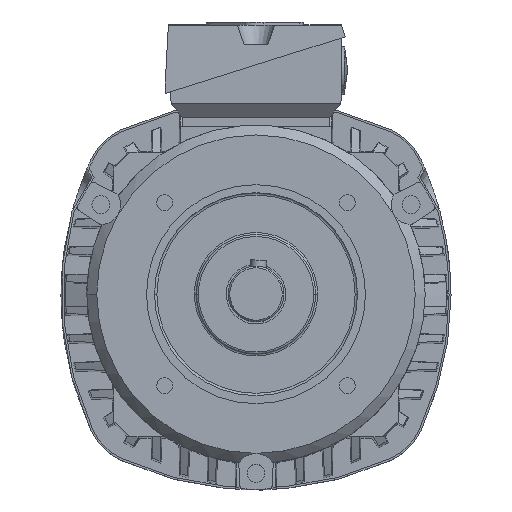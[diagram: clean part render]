
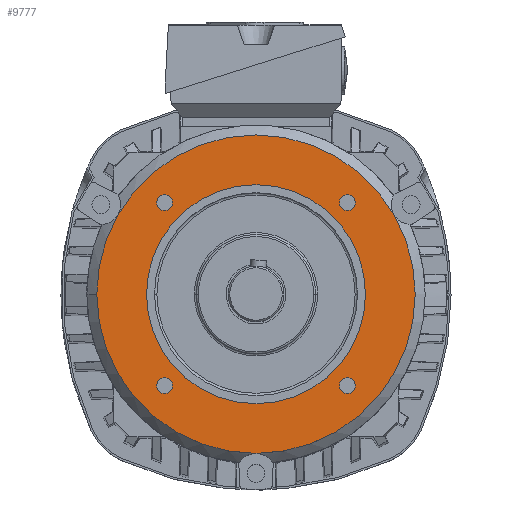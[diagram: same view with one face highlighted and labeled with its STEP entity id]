
A CAD part, top view. The second image highlights one B-rep face of the part: STEP entity #9777.
In plain terms, the highlighted planar face has unit normal (0, 0, 1).
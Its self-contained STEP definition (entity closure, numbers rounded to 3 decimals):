
#136 = DIRECTION ( 'NONE',  ( 1., 0., 0. ) ) ;
#253 = DIRECTION ( 'NONE',  ( -1., 0., 0. ) ) ;
#319 = CARTESIAN_POINT ( 'NONE',  ( 0., 0., 5. ) ) ;
#329 = ORIENTED_EDGE ( 'NONE', *, *, #5196, .F. ) ;
#432 = ORIENTED_EDGE ( 'NONE', *, *, #3754, .F. ) ;
#481 = DIRECTION ( 'NONE',  ( 1., 0., 0. ) ) ;
#504 = ORIENTED_EDGE ( 'NONE', *, *, #2367, .F. ) ;
#720 = DIRECTION ( 'NONE',  ( 1., 0., 0. ) ) ;
#747 = VERTEX_POINT ( 'NONE', #6214 ) ;
#960 = CIRCLE ( 'NONE', #2796, 4. ) ;
#986 = CARTESIAN_POINT ( 'NONE',  ( 0., 0., 5. ) ) ;
#1216 = VERTEX_POINT ( 'NONE', #15254 ) ;
#1386 = DIRECTION ( 'NONE',  ( 0., 1., 0. ) ) ;
#1406 = DIRECTION ( 'NONE',  ( 0., 0., 1. ) ) ;
#1459 = AXIS2_PLACEMENT_3D ( 'NONE', #8128, #4055, #481 ) ;
#1516 = ORIENTED_EDGE ( 'NONE', *, *, #10931, .F. ) ;
#1885 = EDGE_LOOP ( 'NONE', ( #504, #15744 ) ) ;
#2005 = CIRCLE ( 'NONE', #4413, 55. ) ;
#2176 = CARTESIAN_POINT ( 'NONE',  ( -55., 0., 5. ) ) ;
#2217 = VERTEX_POINT ( 'NONE', #9803 ) ;
#2267 = AXIS2_PLACEMENT_3D ( 'NONE', #12544, #2699, #11513 ) ;
#2333 = EDGE_CURVE ( 'NONE', #7802, #5702, #11342, .T. ) ;
#2348 = EDGE_CURVE ( 'NONE', #3596, #747, #11865, .T. ) ;
#2367 = EDGE_CURVE ( 'NONE', #7146, #2217, #11605, .T. ) ;
#2428 = CIRCLE ( 'NONE', #13859, 4. ) ;
#2505 = FACE_BOUND ( 'NONE', #8623, .T. ) ;
#2579 = AXIS2_PLACEMENT_3D ( 'NONE', #9124, #1406, #3984 ) ;
#2699 = DIRECTION ( 'NONE',  ( 0., 0., 1. ) ) ;
#2741 = FACE_BOUND ( 'NONE', #11750, .T. ) ;
#2749 = AXIS2_PLACEMENT_3D ( 'NONE', #4833, #12561, #1386 ) ;
#2796 = AXIS2_PLACEMENT_3D ( 'NONE', #4111, #12935, #10341 ) ;
#3208 = CARTESIAN_POINT ( 'NONE',  ( -45.962, 45.962, 5. ) ) ;
#3284 = AXIS2_PLACEMENT_3D ( 'NONE', #6030, #3352, #11244 ) ;
#3352 = DIRECTION ( 'NONE',  ( 0., 0., 1. ) ) ;
#3435 = VERTEX_POINT ( 'NONE', #9598 ) ;
#3596 = VERTEX_POINT ( 'NONE', #2176 ) ;
#3750 = EDGE_CURVE ( 'NONE', #1216, #7414, #4900, .T. ) ;
#3754 = EDGE_CURVE ( 'NONE', #13867, #5152, #15515, .T. ) ;
#3810 = CARTESIAN_POINT ( 'NONE',  ( 45.962, -45.962, 5. ) ) ;
#3984 = DIRECTION ( 'NONE',  ( 0., 1., 0. ) ) ;
#4055 = DIRECTION ( 'NONE',  ( 0., 0., 1. ) ) ;
#4111 = CARTESIAN_POINT ( 'NONE',  ( 45.962, 45.962, 5. ) ) ;
#4127 = ORIENTED_EDGE ( 'NONE', *, *, #2348, .F. ) ;
#4257 = EDGE_CURVE ( 'NONE', #5152, #13867, #4390, .T. ) ;
#4390 = CIRCLE ( 'NONE', #2267, 4. ) ;
#4413 = AXIS2_PLACEMENT_3D ( 'NONE', #986, #12197, #16032 ) ;
#4833 = CARTESIAN_POINT ( 'NONE',  ( -45.962, -45.962, 5. ) ) ;
#4900 = CIRCLE ( 'NONE', #2749, 4. ) ;
#4910 = CARTESIAN_POINT ( 'NONE',  ( -49.962, -45.962, 5. ) ) ;
#5137 = DIRECTION ( 'NONE',  ( 1., 0., 0. ) ) ;
#5150 = CIRCLE ( 'NONE', #3284, 4. ) ;
#5152 = VERTEX_POINT ( 'NONE', #11457 ) ;
#5162 = FACE_OUTER_BOUND ( 'NONE', #14697, .T. ) ;
#5196 = EDGE_CURVE ( 'NONE', #10381, #3435, #2428, .T. ) ;
#5249 = FACE_BOUND ( 'NONE', #10697, .T. ) ;
#5518 = CIRCLE ( 'NONE', #2579, 4. ) ;
#5566 = ORIENTED_EDGE ( 'NONE', *, *, #4257, .F. ) ;
#5576 = DIRECTION ( 'NONE',  ( 0., -1., 0. ) ) ;
#5702 = VERTEX_POINT ( 'NONE', #7218 ) ;
#6030 = CARTESIAN_POINT ( 'NONE',  ( 45.962, -45.962, 5. ) ) ;
#6214 = CARTESIAN_POINT ( 'NONE',  ( 55., 0., 5. ) ) ;
#6225 = AXIS2_PLACEMENT_3D ( 'NONE', #3208, #8274, #720 ) ;
#6609 = CARTESIAN_POINT ( 'NONE',  ( 41.962, 45.962, 5. ) ) ;
#7146 = VERTEX_POINT ( 'NONE', #10476 ) ;
#7218 = CARTESIAN_POINT ( 'NONE',  ( 80., 0., 5. ) ) ;
#7414 = VERTEX_POINT ( 'NONE', #4910 ) ;
#7571 = CARTESIAN_POINT ( 'NONE',  ( 0., 55., 5. ) ) ;
#7802 = VERTEX_POINT ( 'NONE', #11219 ) ;
#8128 = CARTESIAN_POINT ( 'NONE',  ( 0., 0., 5. ) ) ;
#8274 = DIRECTION ( 'NONE',  ( 0., 0., 1. ) ) ;
#8418 = AXIS2_PLACEMENT_3D ( 'NONE', #319, #16459, #5137 ) ;
#8623 = EDGE_LOOP ( 'NONE', ( #432, #5566 ) ) ;
#8632 = CARTESIAN_POINT ( 'NONE',  ( -41.962, 45.962, 5. ) ) ;
#8662 = AXIS2_PLACEMENT_3D ( 'NONE', #7571, #8744, #253 ) ;
#8744 = DIRECTION ( 'NONE',  ( 0., 0., -1. ) ) ;
#8867 = ORIENTED_EDGE ( 'NONE', *, *, #14349, .F. ) ;
#8870 = DIRECTION ( 'NONE',  ( 0., 0., 1. ) ) ;
#8897 = PLANE ( 'NONE',  #8662 ) ;
#9061 = FACE_BOUND ( 'NONE', #1885, .T. ) ;
#9124 = CARTESIAN_POINT ( 'NONE',  ( -45.962, -45.962, 5. ) ) ;
#9598 = CARTESIAN_POINT ( 'NONE',  ( 49.962, 45.962, 5. ) ) ;
#9738 = AXIS2_PLACEMENT_3D ( 'NONE', #12964, #11378, #136 ) ;
#9777 = ADVANCED_FACE ( 'NONE', ( #2741, #9061, #5249, #2505, #14153, #5162 ), #8897, .F. ) ;
#9803 = CARTESIAN_POINT ( 'NONE',  ( 41.962, -45.962, 5. ) ) ;
#10341 = DIRECTION ( 'NONE',  ( 0., -1., 0. ) ) ;
#10381 = VERTEX_POINT ( 'NONE', #6609 ) ;
#10476 = CARTESIAN_POINT ( 'NONE',  ( 49.962, -45.962, 5. ) ) ;
#10697 = EDGE_LOOP ( 'NONE', ( #14198, #329 ) ) ;
#10931 = EDGE_CURVE ( 'NONE', #7414, #1216, #5518, .T. ) ;
#11110 = ORIENTED_EDGE ( 'NONE', *, *, #13418, .T. ) ;
#11219 = CARTESIAN_POINT ( 'NONE',  ( -80., 0., 5. ) ) ;
#11244 = DIRECTION ( 'NONE',  ( -1., 0., 0. ) ) ;
#11342 = CIRCLE ( 'NONE', #9738, 80. ) ;
#11378 = DIRECTION ( 'NONE',  ( 0., 0., 1. ) ) ;
#11457 = CARTESIAN_POINT ( 'NONE',  ( -49.962, 45.962, 5. ) ) ;
#11513 = DIRECTION ( 'NONE',  ( 1., 0., 0. ) ) ;
#11605 = CIRCLE ( 'NONE', #16140, 4. ) ;
#11750 = EDGE_LOOP ( 'NONE', ( #15683, #1516 ) ) ;
#11865 = CIRCLE ( 'NONE', #8418, 55. ) ;
#12197 = DIRECTION ( 'NONE',  ( 0., 0., 1. ) ) ;
#12544 = CARTESIAN_POINT ( 'NONE',  ( -45.962, 45.962, 5. ) ) ;
#12561 = DIRECTION ( 'NONE',  ( 0., 0., 1. ) ) ;
#12935 = DIRECTION ( 'NONE',  ( 0., 0., 1. ) ) ;
#12964 = CARTESIAN_POINT ( 'NONE',  ( 0., 0., 5. ) ) ;
#12976 = EDGE_LOOP ( 'NONE', ( #8867, #4127 ) ) ;
#13127 = DIRECTION ( 'NONE',  ( 0., 0., 1. ) ) ;
#13418 = EDGE_CURVE ( 'NONE', #5702, #7802, #16077, .T. ) ;
#13859 = AXIS2_PLACEMENT_3D ( 'NONE', #15549, #13127, #5576 ) ;
#13867 = VERTEX_POINT ( 'NONE', #8632 ) ;
#13972 = DIRECTION ( 'NONE',  ( -1., 0., 0. ) ) ;
#14153 = FACE_BOUND ( 'NONE', #12976, .T. ) ;
#14198 = ORIENTED_EDGE ( 'NONE', *, *, #16358, .F. ) ;
#14349 = EDGE_CURVE ( 'NONE', #747, #3596, #2005, .T. ) ;
#14697 = EDGE_LOOP ( 'NONE', ( #11110, #14781 ) ) ;
#14781 = ORIENTED_EDGE ( 'NONE', *, *, #2333, .T. ) ;
#15254 = CARTESIAN_POINT ( 'NONE',  ( -41.962, -45.962, 5. ) ) ;
#15370 = EDGE_CURVE ( 'NONE', #2217, #7146, #5150, .T. ) ;
#15515 = CIRCLE ( 'NONE', #6225, 4. ) ;
#15549 = CARTESIAN_POINT ( 'NONE',  ( 45.962, 45.962, 5. ) ) ;
#15683 = ORIENTED_EDGE ( 'NONE', *, *, #3750, .F. ) ;
#15744 = ORIENTED_EDGE ( 'NONE', *, *, #15370, .F. ) ;
#16032 = DIRECTION ( 'NONE',  ( 1., 0., 0. ) ) ;
#16077 = CIRCLE ( 'NONE', #1459, 80. ) ;
#16140 = AXIS2_PLACEMENT_3D ( 'NONE', #3810, #8870, #13972 ) ;
#16358 = EDGE_CURVE ( 'NONE', #3435, #10381, #960, .T. ) ;
#16459 = DIRECTION ( 'NONE',  ( 0., 0., 1. ) ) ;
